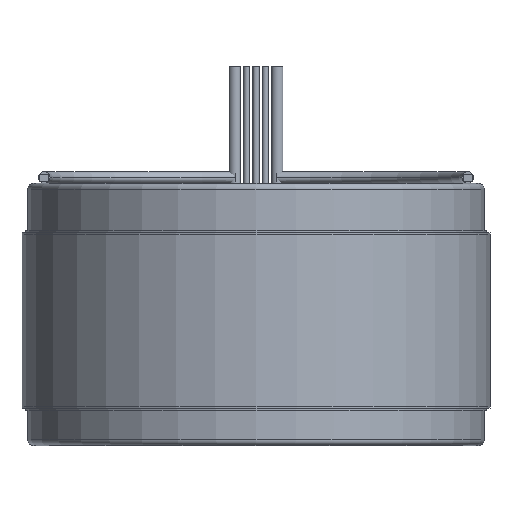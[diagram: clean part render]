
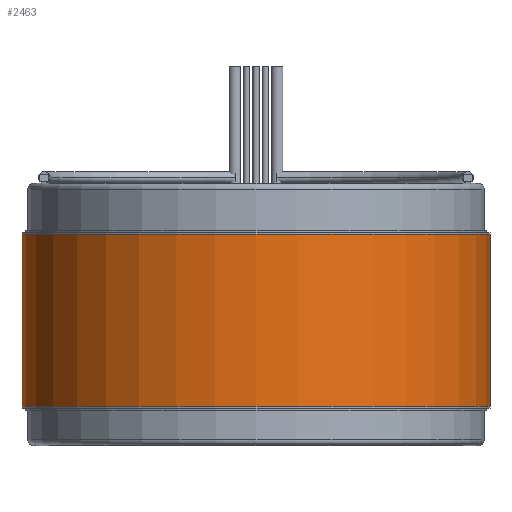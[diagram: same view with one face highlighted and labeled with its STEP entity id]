
A CAD part, front view. The second image highlights one B-rep face of the part: STEP entity #2463.
In plain terms, the highlighted cylindrical face has radius 50.8 mm (diameter 101.6 mm), a partial arc.
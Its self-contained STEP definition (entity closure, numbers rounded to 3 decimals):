
#264 = DIRECTION ( 'NONE',  ( 0., 0., 1. ) ) ;
#294 = DIRECTION ( 'NONE',  ( 0., 0., -1. ) ) ;
#305 = EDGE_CURVE ( 'NONE', #864, #2398, #2150, .T. ) ;
#307 = FACE_OUTER_BOUND ( 'NONE', #3127, .T. ) ;
#313 = VECTOR ( 'NONE', #589, 1000. ) ;
#379 = ORIENTED_EDGE ( 'NONE', *, *, #2169, .T. ) ;
#589 = DIRECTION ( 'NONE',  ( 0., 0., -1. ) ) ;
#718 = VECTOR ( 'NONE', #294, 1000. ) ;
#748 = ORIENTED_EDGE ( 'NONE', *, *, #305, .F. ) ;
#752 = DIRECTION ( 'NONE',  ( 0., 0., -1. ) ) ;
#864 = VERTEX_POINT ( 'NONE', #3448 ) ;
#872 = CARTESIAN_POINT ( 'NONE',  ( -50.8, 0., 18.694 ) ) ;
#891 = CARTESIAN_POINT ( 'NONE',  ( -50.8, 0., -18.694 ) ) ;
#1027 = VERTEX_POINT ( 'NONE', #1785 ) ;
#1071 = DIRECTION ( 'NONE',  ( 0., 0., 1. ) ) ;
#1084 = DIRECTION ( 'NONE',  ( 1., 0., 0. ) ) ;
#1102 = CARTESIAN_POINT ( 'NONE',  ( 50.8, 0., 18.694 ) ) ;
#1303 = CARTESIAN_POINT ( 'NONE',  ( 0., 0., -18.694 ) ) ;
#1461 = ORIENTED_EDGE ( 'NONE', *, *, #2609, .F. ) ;
#1574 = CARTESIAN_POINT ( 'NONE',  ( 0., 0., 18.694 ) ) ;
#1599 = CARTESIAN_POINT ( 'NONE',  ( 0., 0., 18.694 ) ) ;
#1781 = CARTESIAN_POINT ( 'NONE',  ( 50.8, 0., -18.694 ) ) ;
#1785 = CARTESIAN_POINT ( 'NONE',  ( -50.8, 0., 18.694 ) ) ;
#1834 = DIRECTION ( 'NONE',  ( 1., 0., 0. ) ) ;
#1957 = AXIS2_PLACEMENT_3D ( 'NONE', #1599, #264, #1084 ) ;
#1961 = EDGE_CURVE ( 'NONE', #2711, #2398, #2735, .T. ) ;
#2150 = LINE ( 'NONE', #1102, #718 ) ;
#2169 = EDGE_CURVE ( 'NONE', #1027, #2711, #2176, .T. ) ;
#2176 = LINE ( 'NONE', #872, #313 ) ;
#2398 = VERTEX_POINT ( 'NONE', #1781 ) ;
#2463 = ADVANCED_FACE ( 'NONE', ( #307 ), #3139, .T. ) ;
#2609 = EDGE_CURVE ( 'NONE', #1027, #864, #2934, .T. ) ;
#2711 = VERTEX_POINT ( 'NONE', #891 ) ;
#2735 = CIRCLE ( 'NONE', #3158, 50.8 ) ;
#2879 = DIRECTION ( 'NONE',  ( -1., 0., 0. ) ) ;
#2919 = ORIENTED_EDGE ( 'NONE', *, *, #1961, .T. ) ;
#2934 = CIRCLE ( 'NONE', #1957, 50.8 ) ;
#3012 = AXIS2_PLACEMENT_3D ( 'NONE', #1574, #752, #2879 ) ;
#3127 = EDGE_LOOP ( 'NONE', ( #748, #1461, #379, #2919 ) ) ;
#3139 = CYLINDRICAL_SURFACE ( 'NONE', #3012, 50.8 ) ;
#3158 = AXIS2_PLACEMENT_3D ( 'NONE', #1303, #1071, #1834 ) ;
#3448 = CARTESIAN_POINT ( 'NONE',  ( 50.8, 0., 18.694 ) ) ;
